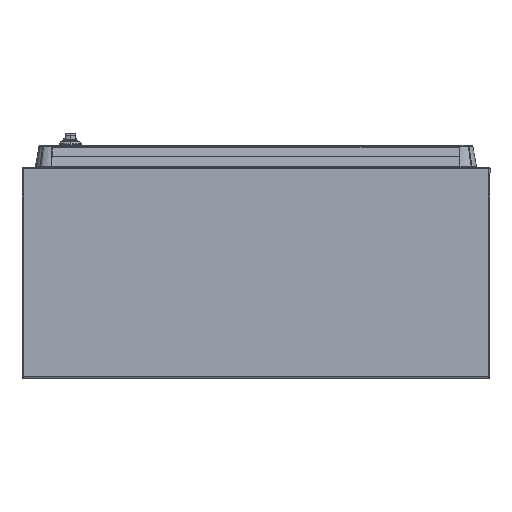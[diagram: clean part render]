
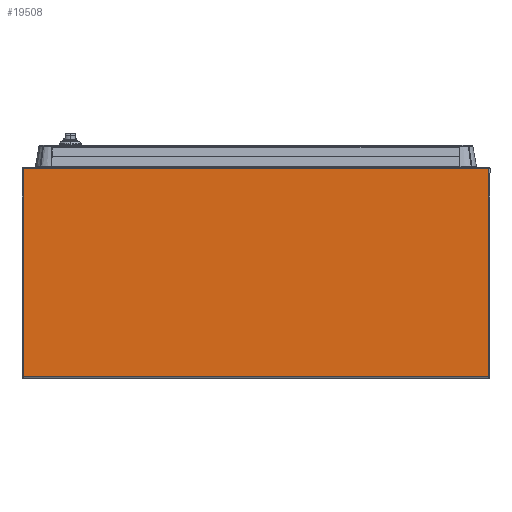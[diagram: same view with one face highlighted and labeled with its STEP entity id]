
A CAD part, front view. The second image highlights one B-rep face of the part: STEP entity #19508.
In plain terms, the highlighted planar face has unit normal (0, -1, 0).
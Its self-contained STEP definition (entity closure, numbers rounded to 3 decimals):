
#6131 = DIRECTION ( 'NONE',  ( 0., 1., 0. ) ) ;
#6646 = EDGE_CURVE ( 'NONE', #62193, #55048, #52323, .T. ) ;
#8182 = CARTESIAN_POINT ( 'NONE',  ( 301.7, -311.442, 0. ) ) ;
#8944 = LINE ( 'NONE', #80824, #12037 ) ;
#9167 = EDGE_CURVE ( 'NONE', #22534, #62193, #8944, .T. ) ;
#12037 = VECTOR ( 'NONE', #102791, 1000. ) ;
#14577 = EDGE_CURVE ( 'NONE', #52594, #55048, #41922, .T. ) ;
#14794 = CARTESIAN_POINT ( 'NONE',  ( 301.7, -311.442, 268.4 ) ) ;
#15283 = CARTESIAN_POINT ( 'NONE',  ( 301.7, -311.442, 1.6 ) ) ;
#15993 = EDGE_CURVE ( 'NONE', #22534, #52594, #30935, .T. ) ;
#18579 = CARTESIAN_POINT ( 'NONE',  ( 301.7, -311.442, 1.6 ) ) ;
#19508 = ADVANCED_FACE ( 'NONE', ( #77519 ), #94248, .F. ) ;
#19954 = EDGE_LOOP ( 'NONE', ( #83421, #82033, #54649, #32731 ) ) ;
#22534 = VERTEX_POINT ( 'NONE', #58225 ) ;
#30909 = DIRECTION ( 'NONE',  ( 1., 0., 0. ) ) ;
#30935 = LINE ( 'NONE', #14794, #37227 ) ;
#32731 = ORIENTED_EDGE ( 'NONE', *, *, #14577, .F. ) ;
#37227 = VECTOR ( 'NONE', #61141, 1000. ) ;
#41922 = LINE ( 'NONE', #74229, #43710 ) ;
#43108 = AXIS2_PLACEMENT_3D ( 'NONE', #8182, #6131, #78007 ) ;
#43710 = VECTOR ( 'NONE', #89898, 1000. ) ;
#46261 = CARTESIAN_POINT ( 'NONE',  ( 898.7, -311.442, 1.6 ) ) ;
#52323 = LINE ( 'NONE', #15283, #56516 ) ;
#52594 = VERTEX_POINT ( 'NONE', #65493 ) ;
#54649 = ORIENTED_EDGE ( 'NONE', *, *, #6646, .T. ) ;
#55048 = VERTEX_POINT ( 'NONE', #46261 ) ;
#56516 = VECTOR ( 'NONE', #30909, 1000. ) ;
#58225 = CARTESIAN_POINT ( 'NONE',  ( 301.7, -311.442, 268.4 ) ) ;
#61141 = DIRECTION ( 'NONE',  ( 1., 0., 0. ) ) ;
#62193 = VERTEX_POINT ( 'NONE', #18579 ) ;
#65493 = CARTESIAN_POINT ( 'NONE',  ( 898.7, -311.442, 268.4 ) ) ;
#74229 = CARTESIAN_POINT ( 'NONE',  ( 898.7, -311.442, 0. ) ) ;
#77519 = FACE_OUTER_BOUND ( 'NONE', #19954, .T. ) ;
#78007 = DIRECTION ( 'NONE',  ( 0., 0., 1. ) ) ;
#80824 = CARTESIAN_POINT ( 'NONE',  ( 301.7, -311.442, 0. ) ) ;
#82033 = ORIENTED_EDGE ( 'NONE', *, *, #9167, .T. ) ;
#83421 = ORIENTED_EDGE ( 'NONE', *, *, #15993, .F. ) ;
#89898 = DIRECTION ( 'NONE',  ( 0., 0., -1. ) ) ;
#94248 = PLANE ( 'NONE',  #43108 ) ;
#102791 = DIRECTION ( 'NONE',  ( 0., 0., -1. ) ) ;
